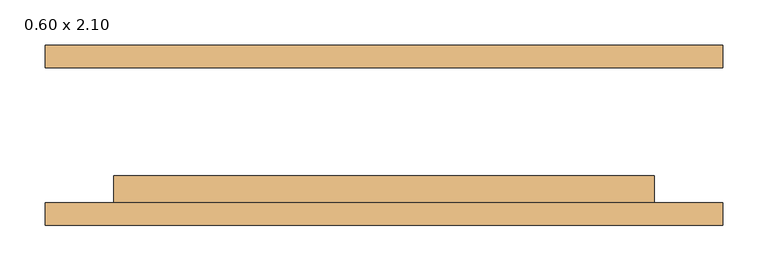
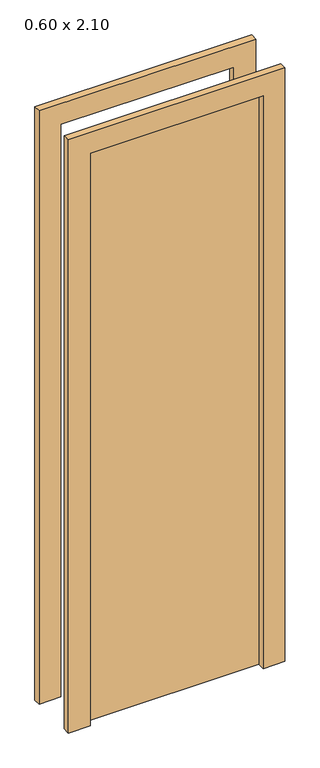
"""IFC4 building model written with IfcOpenShell, lengths in millimetres: door geometry, M_Folha única1 : 0.60 x 2.10."""

from ifc_helpers import new_model, si_unit, frame, origin, origin_with_axes, place, context, project, spatial, polyline, outline, extrude, source, transform, mapped, element, save


def door_0_60_x_2_10_b4560ae4(model_context):
    return source(origin(), model_context, "Body", "SweptSolid", [
        extrude(outline(polyline([(2176.0, -376.0), (0.0, -376.0), (0.0, -300.0), (2100.0, -300.0), (2100.0, 300.0), (0.0, 300.0), (0.0, 376.0), (2176.0, 376.0), (2176.0, -376.0)])), frame((0.0, -100.0, 0.0), z_axis=(0.0, 1.0, 0.0), x_axis=(0.0, 0.0, 1.0)), (0.0, 0.0, 1.0), 25.0),
        extrude(outline(polyline([(2176.0, 376.0), (2176.0, -376.0), (0.0, -376.0), (0.0, -300.0), (2100.0, -300.0), (2100.0, 300.0), (0.0, 300.0), (0.0, 376.0), (2176.0, 376.0)])), frame((0.0, 75.0, 0.0), z_axis=(0.0, 1.0, 0.0), x_axis=(0.0, 0.0, 1.0)), (0.0, 0.0, 1.0), 25.0),
        extrude(outline(polyline([(300.0, -45.0), (300.0, -75.0), (-300.0, -75.0), (-300.0, -45.0), (300.0, -45.0)])), origin_with_axes(), (0.0, 0.0, 1.0), 2100.0),
    ])


if __name__ == "__main__":
    model = new_model("IFC4")
    model_context = context("Model", 3, world=origin())
    ifc_project = project(units=[si_unit("LENGTHUNIT", "METRE", prefix="MILLI")], contexts=[model_context])
    site = spatial("IfcSite", under=ifc_project)
    building = spatial("IfcBuilding", under=site)
    placement = place(None, origin())
    door_0_60_x_2_10_shape = door_0_60_x_2_10_b4560ae4(model_context)
    element("IfcDoor", 1, ObjectType="M_Folha única1 : 0.60 x 2.10", at=placement, inside=building, context=model_context, shape_type="MappedRepresentation", body=[
        mapped(door_0_60_x_2_10_shape, transform((0.0, 0.0, 0.0), x_axis=(1.0, 0.0, 0.0), y_axis=(0.0, 1.0, 0.0), z_axis=(0.0, 0.0, 1.0))),
    ])
    save(model, "model.ifc")
